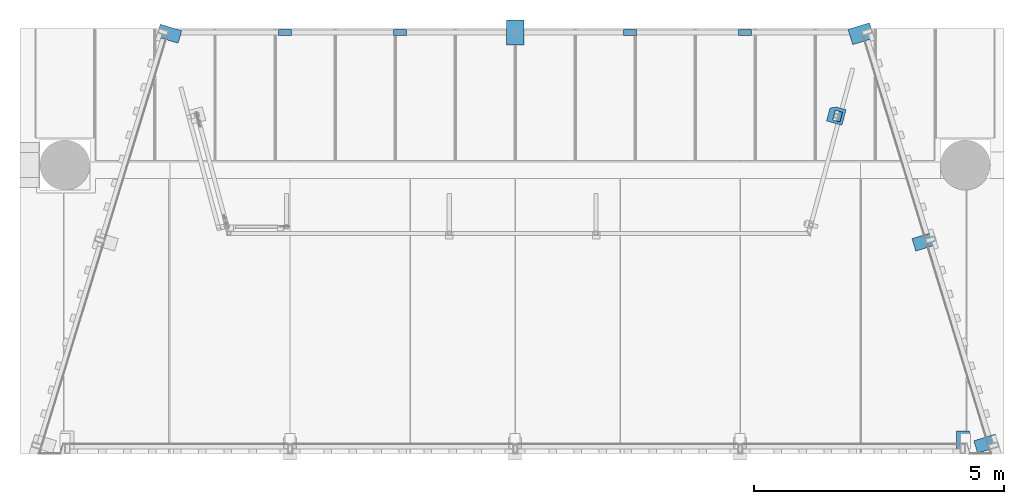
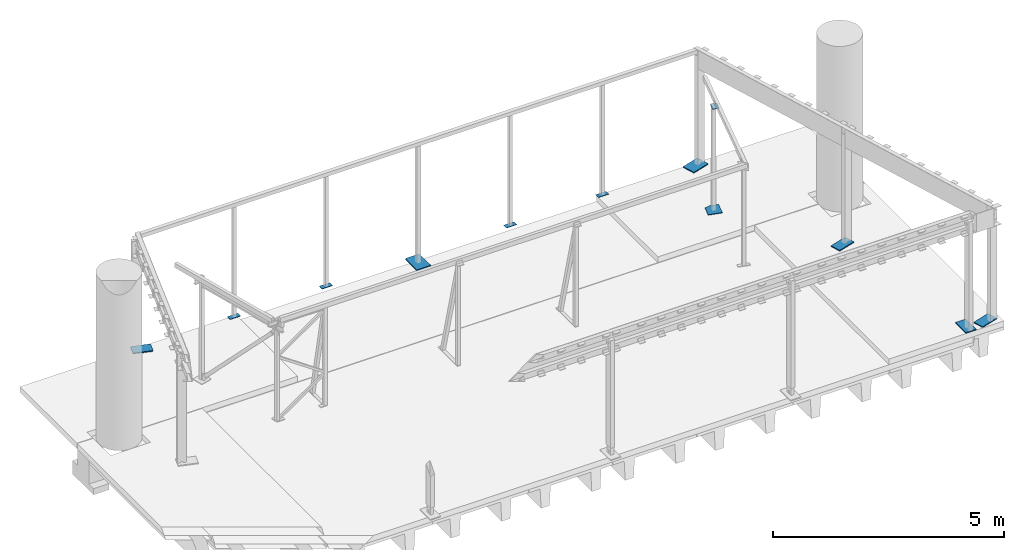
# One storey, part 9 of 19: 12 columns.
"""IFC2X3 building model written with IfcOpenShell, lengths in millimetres."""

from ifc_helpers import new_model, entity, si_unit, converted_unit, derived_unit, direction, frame, origin_with_axes, place, context, subcontext, project, spatial, faceted_brep, material, type_object, element, save


model = new_model("IFC2X3")

# Units and contexts
model_context = context("Model", 3, precision=0.01, world=frame((0.0, 4.29681676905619e-09, 0.0)), true_north=direction((4.01073788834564e-13, 1.0)))
plan_context = context("Plan", 3, precision=0.01, world=frame((0.0, 4.29681676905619e-09, 0.0)), true_north=direction((4.01073788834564e-13, 1.0)))
body_context = subcontext(model_context, "Body", "Model", "MODEL_VIEW")
ifc_project = project(units=[converted_unit("PLANEANGLEUNIT", "DEGREE", entity("IfcPositiveLengthMeasure", 0.0174532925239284), si_unit("PLANEANGLEUNIT", "RADIAN"), dimensions=[0, 0, 0, 0, 0, 0, 0]), si_unit("AREAUNIT", "SQUARE_METRE"), si_unit("LENGTHUNIT", "METRE", prefix="MILLI"), si_unit("MASSUNIT", "GRAM", prefix="KILO"), si_unit("POWERUNIT", "WATT"), si_unit("PRESSUREUNIT", "PASCAL", prefix="KILO"), si_unit("FORCEUNIT", "NEWTON", prefix="KILO"), si_unit("ELECTRICVOLTAGEUNIT", "VOLT"), si_unit("ELECTRICCURRENTUNIT", "AMPERE"), si_unit("THERMODYNAMICTEMPERATUREUNIT", "DEGREE_CELSIUS"), si_unit("TIMEUNIT", "SECOND"), si_unit("VOLUMEUNIT", "CUBIC_METRE"), derived_unit("LINEARVELOCITYUNIT", [(si_unit("LENGTHUNIT", "METRE"), 1), (si_unit("TIMEUNIT", "SECOND"), -1)]), derived_unit("VOLUMETRICFLOWRATEUNIT", [(si_unit("VOLUMEUNIT", "CUBIC_METRE"), 1), (si_unit("TIMEUNIT", "SECOND"), -1)]), derived_unit("THERMALTRANSMITTANCEUNIT", [(si_unit("POWERUNIT", "WATT"), 1), (si_unit("THERMODYNAMICTEMPERATUREUNIT", "KELVIN"), -1), (si_unit("AREAUNIT", "SQUARE_METRE"), -1)]), derived_unit("SOUNDPRESSUREUNIT", [(si_unit("PRESSUREUNIT", "PASCAL"), 1)])], contexts=[model_context, plan_context])

# Site, building, storey
site_placement = place(None, frame((0.0, -4.29681676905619e-09, 0.0), z_axis=(0.0, 0.0, 1.0), x_axis=(1.0, 0.0, 0.0)))
site = spatial("IfcSite", under=ifc_project, at=site_placement, Name="Gardermoen", CompositionType="ELEMENT")
building_placement = place(site_placement, frame((0.0, 4.29681676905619e-09, 0.0), z_axis=(0.0, 0.0, 1.0), x_axis=(1.0, 0.0, 0.0)))
building = spatial("IfcBuilding", under=site, at=building_placement, Name="TI", CompositionType="ELEMENT")
storey_placement = place(building_placement, origin_with_axes())
storey = spatial("IfcBuildingStorey", under=building, at=storey_placement, Name="F", CompositionType="ELEMENT", Elevation=0.0)

# Columns
ifc_material_1 = material(Name="STEEL/S355")
column_type_1 = type_object("IfcColumnType", Name="PL10*120", PredefinedType="NOTDEFINED")
for number, where, z_axis, x_axis in (
    (1, (596470.0, 578150.0, 210875.0), (0.0, 1.0, 0.0), (1.0, 0.0, 0.0)),
    (2, (594170.0, 578150.0, 210875.0), (0.0, 1.0, 0.0), (1.0, 0.0, 0.0)),
    (3, (589570.0, 578150.0, 210875.0), (0.0, 1.0, 0.0), (1.0, 0.0, 0.0)),
    (4, (587270.0, 578150.0, 210875.0), (0.0, 1.0, 0.0), (1.0, 0.0, 0.0)),
):
    element("IfcColumn", number, at=place(storey_placement, frame(where, z_axis=z_axis, x_axis=x_axis)), inside=storey, type_object=column_type_1, material=ifc_material_1, Name="STÅLSØYLE", ObjectType="PL10*120", context=body_context, shape_type="Brep", body=[
        faceted_brep([(7.27595761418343e-10, 4.99999999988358, -60.0000000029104), (-7.8580342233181e-10, 4.99999999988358, 60.0000000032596), (260.0, 5.0, 60.0), (260.0, 5.0, -60.0), (-7.27595761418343e-10, -5.00000000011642, 60.0000000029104), (260.0, -5.0, 60.0), (7.8580342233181e-10, -5.00000000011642, -60.0000000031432), (260.0, -5.0, -60.0)], [[[0, 1, 2, 3]], [[1, 4, 5, 2]], [[4, 6, 7, 5]], [[6, 0, 3, 7]], [[5, 7, 3, 2]], [[6, 4, 1, 0]]]),
    ])
ifc_material_2 = material(Name="STEEL/S355J0")
column_type_2 = type_object("IfcColumnType", Name="PL10*150", PredefinedType="NOTDEFINED")
column_1_placement = place(storey_placement, frame((598421.032513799, 576382.038030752, 213573.0), z_axis=(0.965925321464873, -0.258820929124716, 0.0), x_axis=(0.258820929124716, 0.965925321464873, 0.0)))
element("IfcColumn", 5, at=column_1_placement, inside=storey, type_object=column_type_2, material=ifc_material_2, Name="STÅLSØYLE", ObjectType="PL10*150", context=body_context, shape_type="Brep", body=[
    faceted_brep([(0.0, 5.0, -75.0), (0.0, 5.0, 75.0), (200.000000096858, 5.0, 74.9999999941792), (200.000000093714, 5.0, -75.0000000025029), (0.0, -5.0, 75.0), (200.000000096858, -5.0, 74.9999999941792), (0.0, -5.0, -75.0), (200.000000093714, -5.0, -75.0000000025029)], [[[0, 1, 2, 3]], [[1, 4, 5, 2]], [[4, 6, 7, 5]], [[6, 0, 3, 7]], [[5, 7, 3, 2]], [[6, 4, 1, 0]]]),
])
column_type_3 = type_object("IfcColumnType", Name="PL25*260", PredefinedType="NOTDEFINED")
for number, where, z_axis, x_axis in (
    (6, (584868.560504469, 578191.072290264, 210842.5), (-0.292371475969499, -0.956304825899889, 0.0), (0.956304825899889, -0.292371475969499, 0.0)),
    (7, (600401.794553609, 574035.928125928, 210842.5), (0.292371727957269, -0.956304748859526, -1.00003995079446e-09), (-0.956304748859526, -0.292371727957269, 0.0)),
    (8, (601637.065129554, 569995.540569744, 210842.5), (0.292371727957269, -0.956304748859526, -1.00003995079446e-09), (-0.956304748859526, -0.292371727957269, 0.0)),
    (9, (600950.0, 569730.0, 210842.5), (-1.0, 0.0, 0.0), (0.0, 1.0, 0.0)),
):
    element("IfcColumn", number, at=place(storey_placement, frame(where, z_axis=z_axis, x_axis=x_axis)), inside=storey, type_object=column_type_3, material=ifc_material_1, Name="STÅLSØYLE", ObjectType="PL25*260", context=body_context, shape_type="Brep", body=[
        faceted_brep([(-5.82076609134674e-10, 12.5, -130.0), (-5.82076609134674e-10, 12.5, 130.0), (449.999999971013, 12.5, 129.999999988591), (449.999999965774, 12.5, -130.000000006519), (3.49245965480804e-10, -12.4999999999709, 130.0), (449.999999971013, -12.5, 129.999999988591), (3.49245965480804e-10, -12.4999999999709, -130.0), (449.999999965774, -12.5, -130.000000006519)], [[[0, 1, 2, 3]], [[1, 4, 5, 2]], [[4, 6, 7, 5]], [[6, 0, 3, 7]], [[5, 7, 3, 2]], [[6, 4, 1, 0]]]),
    ])
column_type_4 = type_object("IfcColumnType", Name="PL15*320", PredefinedType="NOTDEFINED")
column_2_placement = place(storey_placement, frame((598533.173777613, 576297.981658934, 210837.5), z_axis=(-0.965925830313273, 0.258819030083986, 0.0), x_axis=(0.258819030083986, 0.965925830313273, 0.0)))
element("IfcColumn", 10, at=column_2_placement, inside=storey, type_object=column_type_4, material=ifc_material_1, Name="STÅLSØYLE", ObjectType="PL15*320", context=body_context, shape_type="Brep", body=[
    faceted_brep([(0.0, -7.5, 0.0), (-0.00062893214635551, -7.5, 319.998931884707), (-0.00062893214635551, 7.5, 319.998931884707), (0.0, 7.5, 0.0), (269.999389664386, -7.5, 319.998931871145), (269.999389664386, 7.5, 319.998931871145), (319.9996185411, -7.5, 199.998931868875), (319.9996185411, 7.5, 199.998931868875), (320.0, -7.5, -1.28056854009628e-09), (320.0, 7.5, -1.28056854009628e-09)], [[[0, 1, 2, 3]], [[1, 4, 5, 2]], [[4, 6, 7, 5]], [[6, 8, 9, 7]], [[8, 0, 3, 9]], [[5, 7, 9, 3, 2]], [[8, 6, 4, 1, 0]]]),
])
column_type_5 = type_object("IfcColumnType", Name="PL25*500", PredefinedType="NOTDEFINED")
column_3_placement = place(storey_placement, frame((591824.999999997, 578150.0, 210692.5), z_axis=(0.0, 1.0, 0.0), x_axis=(1.0, 0.0, 0.0)))
element("IfcColumn", 11, at=column_3_placement, inside=storey, type_object=column_type_5, material=ifc_material_1, Name="STÅLSØYLE", ObjectType="PL25*500", context=body_context, shape_type="Brep", body=[
    faceted_brep([(0.0, 12.5, -250.0), (0.0, 12.5, 250.0), (350.0, 12.5, 250.0), (350.0, 12.5, -250.0), (0.0, -12.5, 250.0), (350.0, -12.5, 250.0), (0.0, -12.5, -250.0), (350.0, -12.5, -250.0)], [[[0, 1, 2, 3]], [[1, 4, 5, 2]], [[4, 6, 7, 5]], [[6, 0, 3, 7]], [[5, 7, 3, 2]], [[6, 4, 1, 0]]]),
])
column_type_6 = type_object("IfcColumnType", Name="PL25*320", PredefinedType="NOTDEFINED")
column_4_placement = place(storey_placement, frame((599131.439495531, 578191.072290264, 210842.5), z_axis=(0.292371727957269, -0.956304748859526, -1.00003995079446e-09), x_axis=(-0.956304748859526, -0.292371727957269, 0.0)))
element("IfcColumn", 12, at=column_4_placement, inside=storey, type_object=column_type_6, material=ifc_material_1, Name="STÅLSØYLE", ObjectType="PL25*320", context=body_context, shape_type="Brep", body=[
    faceted_brep([(1.16415321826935e-10, 12.5000000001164, -160.0), (1.16415321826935e-10, 12.5000000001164, 160.0), (450.0, 12.5, 160.0), (450.0, 12.5, -160.0), (-1.16415321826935e-10, -12.5000000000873, 160.0), (450.0, -12.5, 160.0), (-1.16415321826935e-10, -12.5000000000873, -160.0), (450.0, -12.5, -160.0)], [[[0, 1, 2, 3]], [[1, 4, 5, 2]], [[4, 6, 7, 5]], [[6, 0, 3, 7]], [[5, 7, 3, 2]], [[6, 4, 1, 0]]]),
])

save(model, "model.ifc")
